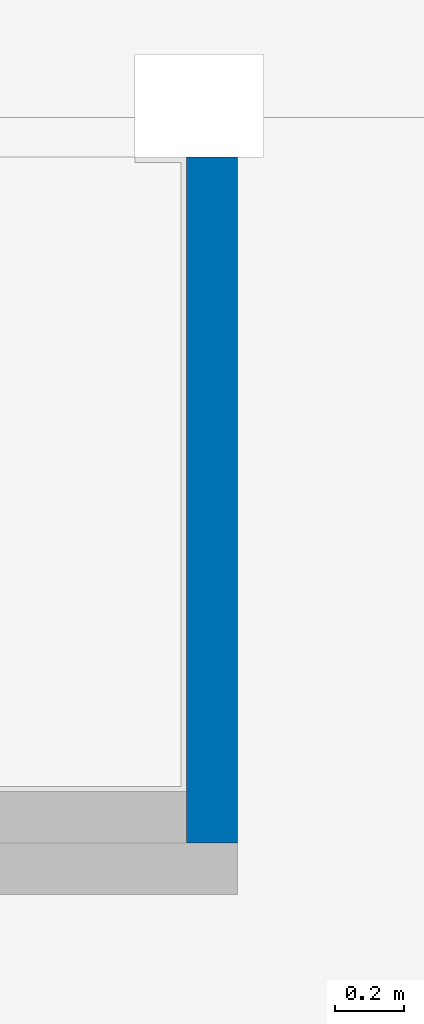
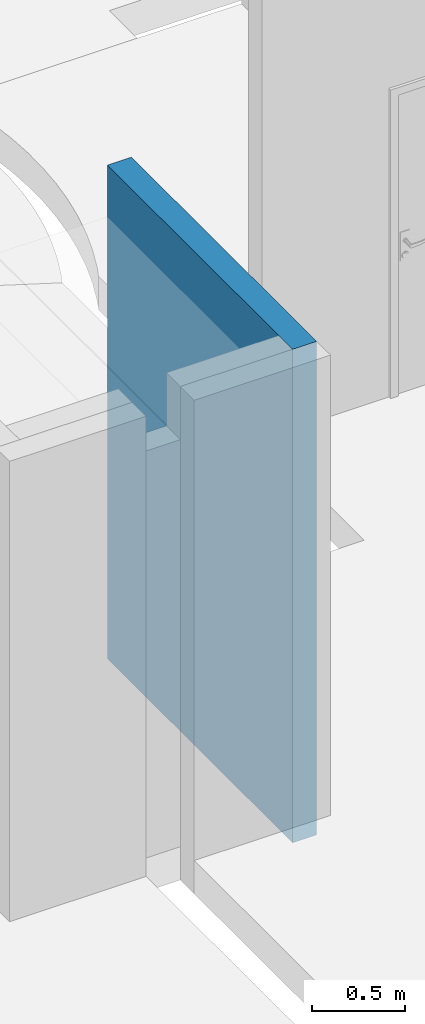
# One storey, part 16 of 21: 1 wall.
"""IFC4 building model written with IfcOpenShell, lengths in millimetres."""

import ifcopenshell
import ifcopenshell.guid

model = None  # the IFC model being written
_history = None  # IfcOwnerHistory: only IFC2X3 demands one
_inside = {}  # id of a spatial element -> (the spatial element, [elements in it])
_under = {}  # id of a project, library or spatial element -> (it, [spatial elements below it])
_declared = {}  # id of a project -> (the project, [libraries it declares])
_typed = {}  # id of a type object -> (the type object, [elements of that type])
_made_of = {}  # id of a material, layer set ... -> (it, [elements and type objects made of it])


def new_model(schema):
    """Start an empty IFC model of exactly this schema.

    Asked for "IFC4X3", IfcOpenShell would pick the latest addendum, in which some entities
    have other attributes; the version numbers below select the first issue.
    IFC2X3 requires an IfcOwnerHistory on every rooted entity: one is made here for all.
    """
    global model, _history
    if schema == "IFC4X3":
        model = ifcopenshell.file(schema_version=(4, 3, 0, 0))
    else:
        model = ifcopenshell.file(schema=schema)
    _inside.clear()
    _under.clear()
    _declared.clear()
    _typed.clear()
    _made_of.clear()
    _history = None
    if model.schema == "IFC2X3":
        org = make("IfcOrganization", Name="unknown")
        user = make(
            "IfcPersonAndOrganization",
            ThePerson=make("IfcPerson", FamilyName="unknown"),
            TheOrganization=org,
        )
        app = make(
            "IfcApplication",
            ApplicationDeveloper=org,
            Version="unknown",
            ApplicationFullName="unknown",
            ApplicationIdentifier="unknown",
        )
        _history = make(
            "IfcOwnerHistory",
            OwningUser=user,
            OwningApplication=app,
            ChangeAction="ADDED",
            CreationDate=0,
        )
    return model


def make(cls, **values):
    """One entity of the class cls with the attributes given. An attribute that is None is left unset."""
    return model.create_entity(
        cls, **{name: value for name, value in values.items() if value is not None}
    )


def entity(cls, *values):
    """Any entity or typed value of the class cls, its attributes in the order of the schema. None: left unset."""
    e = model.create_entity(cls)
    for i, value in enumerate(values):
        if value is not None:
            e[i] = value
    return e


def rooted(cls, **values):
    """An entity with a GlobalId (a new one), such as an element, a storey or a relation."""
    return make(cls, GlobalId=ifcopenshell.guid.new(), OwnerHistory=_history, **values)


def si_unit(unit_type, name, prefix=None):
    """IfcSIUnit, for example si_unit("LENGTHUNIT", "METRE", prefix="MILLI")."""
    return make("IfcSIUnit", UnitType=unit_type, Prefix=prefix, Name=name)


def converted_unit(unit_type, name, factor, base, dimensions=None, offset=None):
    """IfcConversionBasedUnit, such as the inch: factor (a typed value) times the base unit."""
    return make(
        "IfcConversionBasedUnit"
        if offset is None
        else "IfcConversionBasedUnitWithOffset",
        ConversionOffset=offset,
        Dimensions=None
        if dimensions is None
        else entity("IfcDimensionalExponents", *dimensions),
        UnitType=unit_type,
        Name=name,
        ConversionFactor=make(
            "IfcMeasureWithUnit", ValueComponent=factor, UnitComponent=base
        ),
    )


def derived_unit(unit_type, elements):
    """IfcDerivedUnit: a product of units, each with its exponent."""
    return make(
        "IfcDerivedUnit",
        Elements=[
            make("IfcDerivedUnitElement", Unit=unit, Exponent=power)
            for unit, power in elements
        ],
        UnitType=unit_type,
    )


def assignment(units):
    """IfcUnitAssignment: the units of a project."""
    return None if units is None else make("IfcUnitAssignment", Units=units)


def point(xyz):
    """IfcCartesianPoint."""
    return None if xyz is None else make("IfcCartesianPoint", Coordinates=xyz)


def direction(xyz):
    """IfcDirection."""
    return None if xyz is None else make("IfcDirection", DirectionRatios=xyz)


def frame(location, z_axis=None, x_axis=None):
    """IfcAxis2Placement3D, a coordinate frame: its origin and axes. An axis left out is left unset."""
    return make(
        "IfcAxis2Placement3D",
        Location=point(location),
        Axis=direction(z_axis),
        RefDirection=direction(x_axis),
    )


def origin_with_axes():
    """The frame at (0, 0, 0) with the z axis (0, 0, 1) and the x axis (1, 0, 0) written out."""
    return frame((0.0, 0.0, 0.0), z_axis=(0.0, 0.0, 1.0), x_axis=(1.0, 0.0, 0.0))


def place(relative_to, where):
    """IfcLocalPlacement: puts the frame where relative to a parent placement (None: the world)."""
    return make(
        "IfcLocalPlacement", PlacementRelTo=relative_to, RelativePlacement=where
    )


def context(
    kind, dimensions, precision=None, world=None, true_north=None, identifier=None
):
    """IfcGeometricRepresentationContext, for example the 3D "Model" context."""
    return make(
        "IfcGeometricRepresentationContext",
        ContextIdentifier=identifier,
        ContextType=kind,
        CoordinateSpaceDimension=dimensions,
        Precision=precision,
        WorldCoordinateSystem=world,
        TrueNorth=true_north,
    )


def subcontext(parent, identifier, kind, view, scale=None):
    """IfcGeometricRepresentationSubContext, for example "Body" below "Model"."""
    return make(
        "IfcGeometricRepresentationSubContext",
        ContextIdentifier=identifier,
        ContextType=kind,
        ParentContext=parent,
        TargetScale=scale,
        TargetView=view,
    )


def project(units=None, contexts=None):
    """IfcProject with its units and contexts."""
    return rooted(
        "IfcProject",
        Name="project",
        RepresentationContexts=contexts,
        UnitsInContext=assignment(units),
    )


def spatial(cls, under=None, at=None, **own):
    """A site, building, storey or space (cls), placed at a placement, below another one or the project."""
    s = rooted(cls, ObjectPlacement=at, **own)
    if under is not None:
        _under.setdefault(under.id(), (under, []))[1].append(s)
    return s


def point_list(points):
    """IfcCartesianPointList2D or 3D."""
    cls = (
        "IfcCartesianPointList2D" if len(points[0]) == 2 else "IfcCartesianPointList3D"
    )
    return make(cls, CoordList=points)


def polygons(points, faces, closed=None, point_numbers=None):
    """IfcPolygonalFaceSet: a face is its outer loop, then its inner loops; points numbered from 1."""
    made = []
    for loops in faces:
        if len(loops) == 1:
            made.append(make("IfcIndexedPolygonalFace", CoordIndex=loops[0]))
        else:
            made.append(
                make(
                    "IfcIndexedPolygonalFaceWithVoids",
                    CoordIndex=loops[0],
                    InnerCoordIndices=loops[1:],
                )
            )
    return make(
        "IfcPolygonalFaceSet",
        Coordinates=point_list(points),
        Closed=closed,
        Faces=made,
        PnIndex=point_numbers,
    )


def shape(context_of_items, identifier, shape_type, items):
    """IfcShapeRepresentation: the items that make up one representation, for example the "Body"."""
    return make(
        "IfcShapeRepresentation",
        ContextOfItems=context_of_items,
        RepresentationIdentifier=identifier,
        RepresentationType=shape_type,
        Items=items,
    )


def material(Name=None, Category=None):
    """IfcMaterial."""
    return make("IfcMaterial", Name=Name, Category=Category)


def constituent(of_material, Name=None, Category=None, fraction=None):
    """IfcMaterialConstituent: one of the materials an element consists of."""
    return make(
        "IfcMaterialConstituent",
        Name=Name,
        Material=of_material,
        Fraction=fraction,
        Category=Category,
    )


def constituent_set(constituents=None, Name=None):
    """IfcMaterialConstituentSet."""
    return make(
        "IfcMaterialConstituentSet", Name=Name, MaterialConstituents=constituents
    )


def made_of(thing, what):
    """Note that an element or type object is made of a material, layer set ...; save() writes the relation."""
    if what is not None:
        _made_of.setdefault(what.id(), (what, []))[1].append(thing)
    return thing


def type_object(cls, material=None, **own):
    """A type object (cls), such as IfcWallType, which elements share."""
    return made_of(rooted(cls, **own), material)


def element(
    cls,
    number,
    at=None,
    inside=None,
    cuts=None,
    type_object=None,
    material=None,
    context=None,
    identifier="Body",
    shape_type=None,
    held_by="IfcProductDefinitionShape",
    body=None,
    shapes=None,
    **own,
):
    """One element of the class cls, such as IfcWall. Its Tag is "e" and its number.

    at: its placement. inside: the storey or other place that contains it. cuts: it is an
    opening in that element (IfcRelVoidsElement). A single representation is given by context,
    identifier, shape_type and body (its items); several are given by shapes. held_by: the class
    of the entity that holds the representations. save() writes the other relations.
    """
    e = rooted(cls, Tag="e%d" % number, ObjectPlacement=at, **own)
    if body is not None:
        shapes = [shape(context, identifier, shape_type, body)]
    if shapes is not None:
        e.Representation = make(held_by, Representations=shapes)
    if inside is not None:
        _inside.setdefault(inside.id(), (inside, []))[1].append(e)
    if cuts is not None:
        rooted(
            "IfcRelVoidsElement", RelatingBuildingElement=cuts, RelatedOpeningElement=e
        )
    if type_object is not None:
        _typed.setdefault(type_object.id(), (type_object, []))[1].append(e)
    return made_of(e, material)


def aggregate(whole, parts):
    """IfcRelAggregates: a whole, such as a stair, and the parts it consists of."""
    return rooted("IfcRelAggregates", RelatingObject=whole, RelatedObjects=parts)


def save(model, path):
    """Write the relations noted so far, then the file.

    IfcRelAggregates (storeys below a building ...), IfcRelContainedInSpatialStructure (elements
    in a storey), IfcRelDefinesByType, IfcRelAssociatesMaterial and IfcRelDeclares: one each for
    every whole, place, type object, material and project.
    """
    for whole, parts in _under.values():
        aggregate(whole, parts)
    for where, things in _inside.values():
        rooted(
            "IfcRelContainedInSpatialStructure",
            RelatedElements=things,
            RelatingStructure=where,
        )
    for kind, things in _typed.values():
        rooted("IfcRelDefinesByType", RelatedObjects=things, RelatingType=kind)
    for what, things in _made_of.values():
        rooted("IfcRelAssociatesMaterial", RelatedObjects=things, RelatingMaterial=what)
    for by, libraries in _declared.values():
        rooted("IfcRelDeclares", RelatingContext=by, RelatedDefinitions=libraries)
    model.write(path)


model = new_model("IFC4")

# Units and contexts
model_context = context("Model", 3, precision=0.01, world=origin_with_axes(), true_north=direction((0.0, 1.0)))
body_context = subcontext(model_context, "Body", "Model", "MODEL_VIEW")
ifc_project = project(units=[si_unit("LENGTHUNIT", "METRE", prefix="MILLI"), si_unit("AREAUNIT", "SQUARE_METRE"), si_unit("VOLUMEUNIT", "CUBIC_METRE"), converted_unit("PLANEANGLEUNIT", "DEGREE", entity("IfcPlaneAngleMeasure", 0.0174532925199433), si_unit("PLANEANGLEUNIT", "RADIAN"), dimensions=[0, 0, 0, 0, 0, 0, 0]), converted_unit("TIMEUNIT", "Year", entity("IfcTimeMeasure", 31557600.0), si_unit("TIMEUNIT", "SECOND"), dimensions=[0, 0, 1, 0, 0, 0, 0]), si_unit("MASSUNIT", "GRAM", prefix="KILO"), si_unit("THERMODYNAMICTEMPERATUREUNIT", "DEGREE_CELSIUS"), si_unit("LUMINOUSINTENSITYUNIT", "LUMEN"), si_unit("ENERGYUNIT", "JOULE", prefix="MEGA"), derived_unit("THERMALCONDUCTANCEUNIT", [(si_unit("POWERUNIT", "WATT"), 1), (si_unit("LENGTHUNIT", "METRE"), -1), (si_unit("THERMODYNAMICTEMPERATUREUNIT", "KELVIN"), -1)]), derived_unit("SPECIFICHEATCAPACITYUNIT", [(si_unit("ENERGYUNIT", "JOULE"), 1), (si_unit("MASSUNIT", "GRAM", prefix="KILO"), -1), (si_unit("THERMODYNAMICTEMPERATUREUNIT", "KELVIN"), -1)]), derived_unit("MASSDENSITYUNIT", [(si_unit("MASSUNIT", "GRAM", prefix="KILO"), 1), (si_unit("VOLUMEUNIT", "CUBIC_METRE"), -1)])], contexts=[model_context])

# Site, building, storey
site_placement = place(None, origin_with_axes())
site = spatial("IfcSite", under=ifc_project, at=site_placement, Name="Exteriér", CompositionType="ELEMENT")
building_placement = place(site_placement, origin_with_axes())
building = spatial("IfcBuilding", under=site, at=building_placement, Name="Univerzitní lezecké centrum", CompositionType="ELEMENT")
storey_placement = place(building_placement, frame((0.0, 0.0, -3350.0), z_axis=(0.0, 0.0, 1.0), x_axis=(1.0, 0.0, 0.0)))
storey = spatial("IfcBuildingStorey", under=building, at=storey_placement, Name="1.PP", CompositionType="ELEMENT", Elevation=-3350.0)

# Wall
ifc_material = material(Name="Keramické tvárnice nenosné tl. 150 mm")
ifc_constituent = constituent(ifc_material, Name="Keramické tvárnice nenosné tl. 150 mm")
ifc_constituent_set = constituent_set(constituents=[ifc_constituent], Name="!Vnitřní keramická stěna 150 mm - nenosná*")
wall_type = type_object("IfcWallType", Name="!Vnitřní keramická stěna 150 mm - nenosná* 150", PredefinedType="NOTDEFINED")
wall_placement = place(storey_placement, frame((3299.851648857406, -2449.739482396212, -220.0000000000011), z_axis=(0.0, 0.0, 1.0), x_axis=(0.0, 1.0, 0.0)))
element("IfcWall", 1, at=wall_placement, inside=storey, type_object=wall_type, material=ifc_constituent_set, Name="St07*", PredefinedType="NOTDEFINED", context=body_context, shape_type="Tessellation", body=[
    polygons([(2149.739482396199, -149.9999999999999, 0.0), (149.9999999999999, -149.9999999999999, 0.0), (149.9999999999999, 0.0, 0.0), (2149.739482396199, 0.0, 0.0), (2149.739482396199, -149.9999999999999, 3250.000000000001), (149.9999999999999, -149.9999999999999, 3250.000000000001), (149.9999999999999, 0.0, 3250.000000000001), (2149.739482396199, 0.0, 3250.000000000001)], [[[1, 2, 3, 4]], [[5, 6, 2, 1]], [[3, 2, 6, 7]], [[4, 3, 7, 8]], [[4, 8, 5, 1]], [[8, 7, 6, 5]]], closed=True),
])

save(model, "model.ifc")
